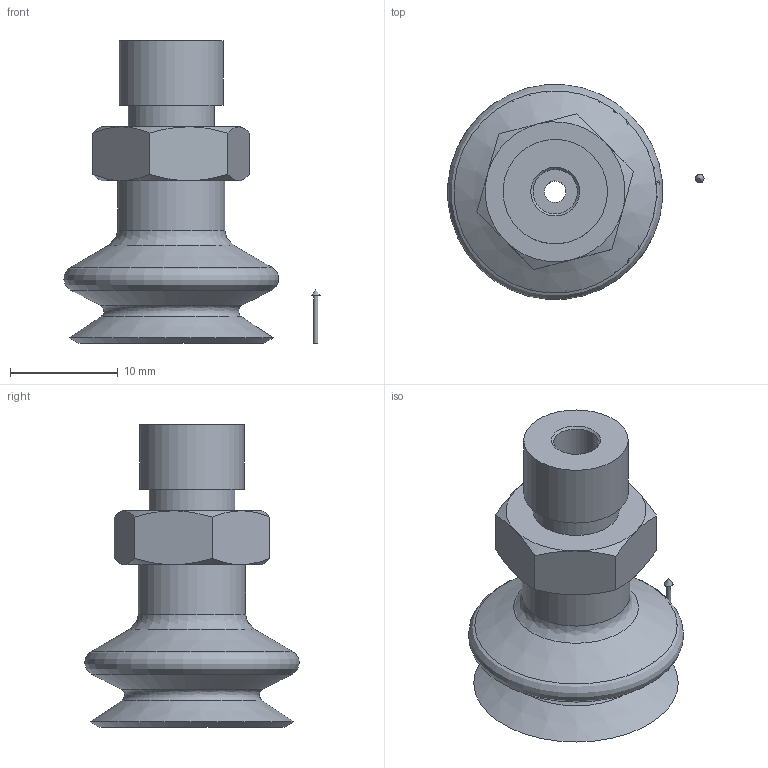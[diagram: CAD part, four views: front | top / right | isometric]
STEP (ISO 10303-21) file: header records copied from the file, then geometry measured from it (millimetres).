
FILE_DESCRIPTION(('STEP AP214'),'1');
FILE_NAME('KIT.08.31.D20.9.stp','2019-05-28T06:36:56',(' '),(' '),'Spatial InterOp 3D',' ',' ');
FILE_SCHEMA(('AUTOMOTIVE_DESIGN { 1 0 10303 214 1 1 1 1 }'));
Length unit declared in the file: millimetre
Products named in the file (5): KIT.08.31.D20.9; CA.08.09.009; CA.08.31.004
Assembly tree (4 placements, depth 3):
  KIT.08.31.D20.9
    CA.08.09.009
    (unnamed)
      CA.08.31.004
      CA.08.31.004
Bounding box: 23.79 x 19.93 x 28.11 mm (x, y, z)
Volume: 3654.9 mm3; surface area: 5985.5 mm2
Topology: 3 solids, 3 shells, 57 faces, 124 edges, 80 vertices
Faces by surface type: cone 24, plane 19, cylinder 9, revolution 5
Full cylindrical faces by diameter (mm): 0.4 x1, 2 x1, 3.5 x1, 4.134 x1, 4.5 x1, 5.16 x1, 8 x1, 9.7 x1, 10 x1
Entity records: 1922 total; most frequent: CARTESIAN_POINT 335, DIRECTION 225, ORIENTED_EDGE 158, AXIS2_PLACEMENT_3D 107, EDGE_LOOP 94, EDGE_CURVE 79, FACE_OUTER_BOUND 71, VERTEX_POINT 62
